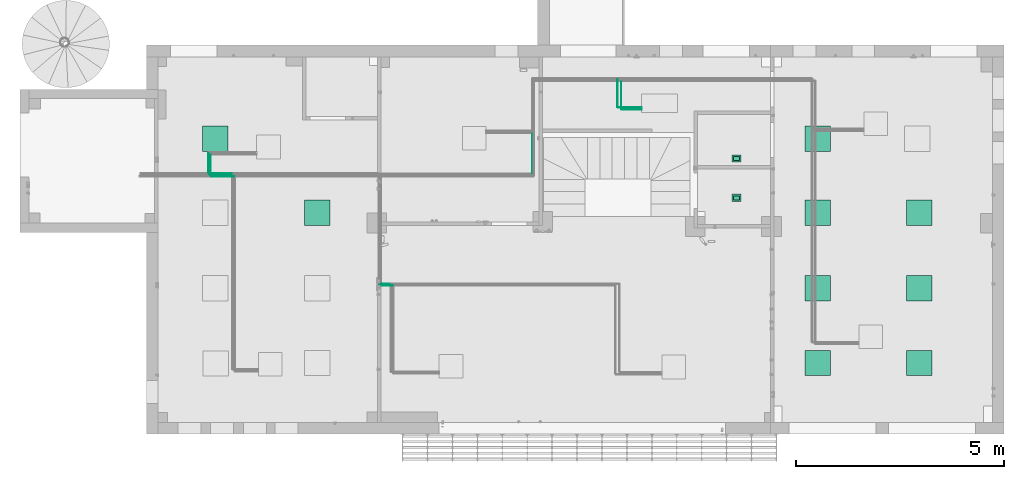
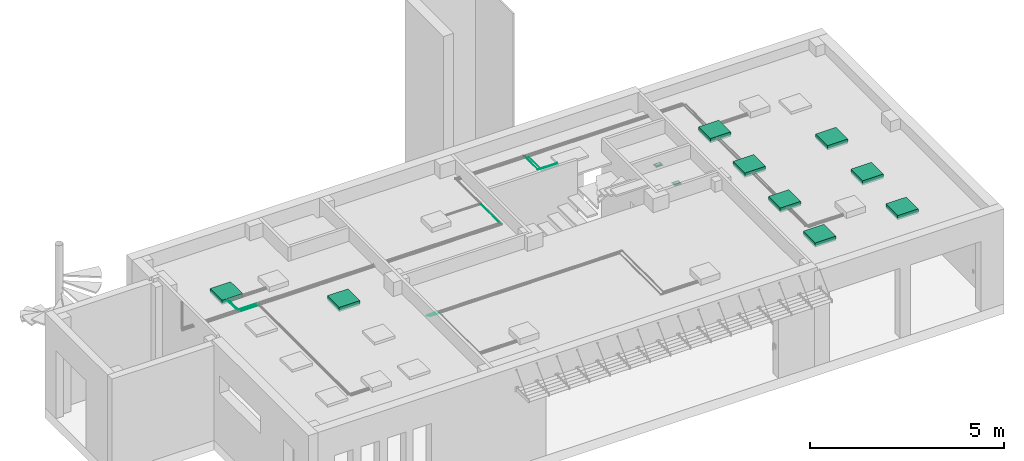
# One storey, part 8 of 24: 11 flow segments, 11 flow terminals.
"""IFC2X3 building model written with IfcOpenShell, lengths in millimetres."""

from ifc_helpers import new_model, entity, si_unit, converted_unit, derived_unit, direction, frame, frame_2d, origin, origin_2d_with_axis, place, context, subcontext, project, spatial, polyline, rectangle, circle, outline, extrude, source, transform, mapped, material, material_list, type_object, type_shapes, element, save


model = new_model("IFC2X3")

# Units and contexts
model_context = context("Model", 3, precision=0.01, world=origin(), true_north=direction((6.123031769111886e-17, 1.0)))
body_context = subcontext(model_context, "Body", "Model", "MODEL_VIEW")
ifc_project = project(units=[si_unit("LENGTHUNIT", "METRE", prefix="MILLI"), si_unit("AREAUNIT", "SQUARE_METRE"), si_unit("VOLUMEUNIT", "CUBIC_METRE"), converted_unit("PLANEANGLEUNIT", "DEGREE", entity("IfcRatioMeasure", 0.017453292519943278), si_unit("PLANEANGLEUNIT", "RADIAN"), dimensions=[0, 0, 0, 0, 0, 0, 0]), si_unit("MASSUNIT", "GRAM", prefix="KILO"), derived_unit("MASSDENSITYUNIT", [(si_unit("MASSUNIT", "GRAM", prefix="KILO"), 1), (si_unit("LENGTHUNIT", "METRE"), -3)]), derived_unit("MOMENTOFINERTIAUNIT", [(si_unit("LENGTHUNIT", "METRE"), 4)]), si_unit("TIMEUNIT", "SECOND"), si_unit("FREQUENCYUNIT", "HERTZ"), si_unit("THERMODYNAMICTEMPERATUREUNIT", "DEGREE_CELSIUS"), derived_unit("THERMALTRANSMITTANCEUNIT", [(si_unit("MASSUNIT", "GRAM", prefix="KILO"), 1), (si_unit("THERMODYNAMICTEMPERATUREUNIT", "KELVIN"), -1), (si_unit("TIMEUNIT", "SECOND"), -3)]), derived_unit("VOLUMETRICFLOWRATEUNIT", [(si_unit("LENGTHUNIT", "METRE"), 3), (si_unit("TIMEUNIT", "SECOND"), -1)]), derived_unit("MASSFLOWRATEUNIT", [(si_unit("MASSUNIT", "GRAM", prefix="KILO"), 1), (si_unit("TIMEUNIT", "SECOND"), -1)]), derived_unit("ROTATIONALFREQUENCYUNIT", [(si_unit("TIMEUNIT", "SECOND"), -1)]), si_unit("ELECTRICCURRENTUNIT", "AMPERE"), si_unit("ELECTRICVOLTAGEUNIT", "VOLT"), si_unit("POWERUNIT", "WATT"), si_unit("FORCEUNIT", "NEWTON", prefix="KILO"), si_unit("ILLUMINANCEUNIT", "LUX"), si_unit("LUMINOUSFLUXUNIT", "LUMEN"), si_unit("LUMINOUSINTENSITYUNIT", "CANDELA"), derived_unit("USERDEFINED", [(si_unit("MASSUNIT", "GRAM", prefix="KILO"), -1), (si_unit("LENGTHUNIT", "METRE"), -2), (si_unit("TIMEUNIT", "SECOND"), 3), (si_unit("LUMINOUSFLUXUNIT", "LUMEN"), 1)]), derived_unit("SOUNDPOWERUNIT", [(si_unit("MASSUNIT", "GRAM", prefix="KILO"), 1), (si_unit("LENGTHUNIT", "METRE"), 2), (si_unit("TIMEUNIT", "SECOND"), -3)]), derived_unit("SOUNDPRESSUREUNIT", [(si_unit("MASSUNIT", "GRAM", prefix="KILO"), 1), (si_unit("LENGTHUNIT", "METRE"), -1), (si_unit("TIMEUNIT", "SECOND"), -2)]), derived_unit("LINEARVELOCITYUNIT", [(si_unit("LENGTHUNIT", "METRE"), 1), (si_unit("TIMEUNIT", "SECOND"), -1)]), si_unit("PRESSUREUNIT", "PASCAL"), derived_unit("USERDEFINED", [(si_unit("LENGTHUNIT", "METRE"), -2), (si_unit("MASSUNIT", "GRAM", prefix="KILO"), 1), (si_unit("TIMEUNIT", "SECOND"), -2)]), derived_unit("LINEARFORCEUNIT", [(si_unit("MASSUNIT", "GRAM", prefix="KILO"), 1), (si_unit("LENGTHUNIT", "METRE"), 1), (si_unit("TIMEUNIT", "SECOND"), -2), (si_unit("LENGTHUNIT", "METRE"), -1)]), derived_unit("PLANARFORCEUNIT", [(si_unit("MASSUNIT", "GRAM", prefix="KILO"), 1), (si_unit("LENGTHUNIT", "METRE"), 1), (si_unit("TIMEUNIT", "SECOND"), -2), (si_unit("LENGTHUNIT", "METRE"), -2)])], contexts=[model_context])

# Site, building, storey
site_placement = place(None, origin())
site = spatial("IfcSite", under=ifc_project, at=site_placement, Name="Default", CompositionType="ELEMENT")
building_placement = place(site_placement, origin())
building = spatial("IfcBuilding", under=site, at=building_placement, CompositionType="ELEMENT")
storey_placement = place(building_placement, origin())
storey = spatial("IfcBuildingStorey", under=building, at=storey_placement, Name="Level 1", CompositionType="ELEMENT", Elevation=0.0)

# Flow segments
ifc_material_1 = material(Name="<Unnamed>")
pipe_segment_type_1 = type_object("IfcPipeSegmentType", Name="Pipe Types:Standard:Standard : Pipe Types:Standard", PredefinedType="NOTDEFINED", material=ifc_material_1)
shared_shape_1 = source(origin(), body_context, "Body", "SweptSolid", [
    extrude(circle(Radius=6.35, at=origin_2d_with_axis()), frame((-3812.50906886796, -454.56947897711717, 2710.0), z_axis=(1.0, 0.0, 0.0), x_axis=(0.0, 1.0, 0.0)), (0.0, 0.0, 1.0), 254.76162965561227),
])
type_shapes(pipe_segment_type_1, [shared_shape_1])
flow_segment_1_placement = place(storey_placement, origin())
element("IfcFlowSegment", 1, at=flow_segment_1_placement, inside=storey, type_object=pipe_segment_type_1, material=ifc_material_1, Name="Pipe Types:Standard:Standard : Pipe Types:Standard:Standard:Standard : Pipe Types:Standard : Pipe Types:Standard:Standard : Pipe Types:Standard", ObjectType="Pipe Types:Standard:Standard : Pipe Types:Standard:Standard:Standard : Pipe Types:Standard : Pipe Types:Standard:Standard : Pipe Types:Standard", context=body_context, shape_type="MappedRepresentation", body=[
    mapped(shared_shape_1, transform((0.0, 0.0, 0.0), scale=1.0)),
])
pipe_segment_type_2 = type_object("IfcPipeSegmentType", Name="Pipe Types:Standard:Standard : Pipe Types:Standard", PredefinedType="NOTDEFINED", material=ifc_material_1)
shared_shape_2 = source(origin(), body_context, "Body", "SweptSolid", [
    extrude(circle(Radius=3.97, at=origin_2d_with_axis()), frame((-3758.45993921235, -498.319478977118, 2690.0), z_axis=(1.0, 0.0, 0.0), x_axis=(0.0, 1.0, 0.0)), (0.0, 0.0, 1.0), 268.88750000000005),
])
type_shapes(pipe_segment_type_2, [shared_shape_2])
flow_segment_2_placement = place(storey_placement, origin())
element("IfcFlowSegment", 2, at=flow_segment_2_placement, inside=storey, type_object=pipe_segment_type_2, material=ifc_material_1, Name="Pipe Types:Standard:Standard : Pipe Types:Standard:Standard:Standard : Pipe Types:Standard : Pipe Types:Standard:Standard : Pipe Types:Standard", ObjectType="Pipe Types:Standard:Standard : Pipe Types:Standard:Standard:Standard : Pipe Types:Standard : Pipe Types:Standard:Standard : Pipe Types:Standard", context=body_context, shape_type="MappedRepresentation", body=[
    mapped(shared_shape_2, transform((0.0, 0.0, 0.0), scale=1.0)),
])
pipe_segment_type_3 = type_object("IfcPipeSegmentType", Name="Pipe Types:Standard:Standard : Pipe Types:Standard", PredefinedType="NOTDEFINED", material=ifc_material_1)
shared_shape_3 = source(origin(), body_context, "Body", "SweptSolid", [
    extrude(circle(Radius=6.35, at=origin_2d_with_axis()), frame((-129.02240663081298, 2205.35180308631, 2710.0), z_axis=(0.0, 1.0, 0.0), x_axis=(-1.0, 0.0, 0.0)), (0.0, 0.0, 1.0), 955.4242236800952),
])
type_shapes(pipe_segment_type_3, [shared_shape_3])
flow_segment_3_placement = place(storey_placement, origin())
element("IfcFlowSegment", 3, at=flow_segment_3_placement, inside=storey, type_object=pipe_segment_type_3, material=ifc_material_1, Name="Pipe Types:Standard:Standard : Pipe Types:Standard:Standard:Standard : Pipe Types:Standard : Pipe Types:Standard:Standard : Pipe Types:Standard", ObjectType="Pipe Types:Standard:Standard : Pipe Types:Standard:Standard:Standard : Pipe Types:Standard : Pipe Types:Standard:Standard : Pipe Types:Standard", context=body_context, shape_type="MappedRepresentation", body=[
    mapped(shared_shape_3, transform((0.0, 0.0, 0.0), scale=1.0)),
])
pipe_segment_type_4 = type_object("IfcPipeSegmentType", Name="Pipe Types:Standard:Standard : Pipe Types:Standard", PredefinedType="NOTDEFINED", material=ifc_material_1)
shared_shape_4 = source(origin(), body_context, "Body", "SweptSolid", [
    extrude(circle(Radius=3.175, at=origin_2d_with_axis()), frame((-7877.983124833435, 2156.17020603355, 2690.0), z_axis=(0.0, 1.0, 0.0), x_axis=(-1.0, 0.0, 0.0)), (0.0, 0.0, 1.0), 493.79422679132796),
])
type_shapes(pipe_segment_type_4, [shared_shape_4])
flow_segment_4_placement = place(storey_placement, origin())
element("IfcFlowSegment", 4, at=flow_segment_4_placement, inside=storey, type_object=pipe_segment_type_4, material=ifc_material_1, Name="Pipe Types:Standard:Standard : Pipe Types:Standard:Standard:Standard : Pipe Types:Standard : Pipe Types:Standard:Standard : Pipe Types:Standard", ObjectType="Pipe Types:Standard:Standard : Pipe Types:Standard:Standard:Standard : Pipe Types:Standard : Pipe Types:Standard:Standard : Pipe Types:Standard", context=body_context, shape_type="MappedRepresentation", body=[
    mapped(shared_shape_4, transform((0.0, 0.0, 0.0), scale=1.0)),
])
pipe_segment_type_5 = type_object("IfcPipeSegmentType", Name="Pipe Types:Standard:Standard : Pipe Types:Standard", PredefinedType="NOTDEFINED", material=ifc_material_1)
shared_shape_5 = source(origin(), body_context, "Body", "SweptSolid", [
    extrude(circle(Radius=6.35, at=origin_2d_with_axis()), frame((-7929.794384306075, 2220.4330530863, 2710.0), z_axis=(0.0, 1.0, 0.0), x_axis=(-1.0, 0.0, 0.0)), (0.0, 0.0, 1.0), 472.89387973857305),
])
type_shapes(pipe_segment_type_5, [shared_shape_5])
flow_segment_5_placement = place(storey_placement, origin())
element("IfcFlowSegment", 5, at=flow_segment_5_placement, inside=storey, type_object=pipe_segment_type_5, material=ifc_material_1, Name="Pipe Types:Standard:Standard : Pipe Types:Standard:Standard:Standard : Pipe Types:Standard : Pipe Types:Standard:Standard : Pipe Types:Standard", ObjectType="Pipe Types:Standard:Standard : Pipe Types:Standard:Standard:Standard : Pipe Types:Standard : Pipe Types:Standard:Standard : Pipe Types:Standard", context=body_context, shape_type="MappedRepresentation", body=[
    mapped(shared_shape_5, transform((0.0, 0.0, 0.0), scale=1.0)),
])
pipe_segment_type_6 = type_object("IfcPipeSegmentType", Name="Pipe Types:Standard:Standard : Pipe Types:Standard", PredefinedType="NOTDEFINED", material=ifc_material_1)
shared_shape_6 = source(origin(), body_context, "Body", "SweptSolid", [
    extrude(circle(Radius=4.76, at=origin_2d_with_axis()), frame((-7858.93312483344, 2132.0702060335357, 2690.0), z_axis=(1.0, 0.0, 0.0), x_axis=(0.0, 1.0, 0.0)), (0.0, 0.0, 1.0), 552.2060224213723),
])
type_shapes(pipe_segment_type_6, [shared_shape_6])
flow_segment_6_placement = place(storey_placement, origin())
element("IfcFlowSegment", 6, at=flow_segment_6_placement, inside=storey, type_object=pipe_segment_type_6, material=ifc_material_1, Name="Pipe Types:Standard:Standard : Pipe Types:Standard:Standard:Standard : Pipe Types:Standard : Pipe Types:Standard:Standard : Pipe Types:Standard", ObjectType="Pipe Types:Standard:Standard : Pipe Types:Standard:Standard:Standard : Pipe Types:Standard : Pipe Types:Standard:Standard : Pipe Types:Standard", context=body_context, shape_type="MappedRepresentation", body=[
    mapped(shared_shape_6, transform((0.0, 0.0, 0.0), scale=1.0)),
])
pipe_segment_type_7 = type_object("IfcPipeSegmentType", Name="Pipe Types:Standard:Standard : Pipe Types:Standard", PredefinedType="NOTDEFINED", material=ifc_material_1)
shared_shape_7 = source(origin(), body_context, "Body", "SweptSolid", [
    extrude(circle(Radius=9.525, at=origin_2d_with_axis()), frame((-7905.98188430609, 2191.0643030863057, 2710.0), z_axis=(1.0, 0.0, 0.0), x_axis=(0.0, 1.0, 0.0)), (0.0, 0.0, 1.0), 534.4922818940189),
])
type_shapes(pipe_segment_type_7, [shared_shape_7])
flow_segment_7_placement = place(storey_placement, origin())
element("IfcFlowSegment", 7, at=flow_segment_7_placement, inside=storey, type_object=pipe_segment_type_7, material=ifc_material_1, Name="Pipe Types:Standard:Standard : Pipe Types:Standard:Standard:Standard : Pipe Types:Standard : Pipe Types:Standard:Standard : Pipe Types:Standard", ObjectType="Pipe Types:Standard:Standard : Pipe Types:Standard:Standard:Standard : Pipe Types:Standard : Pipe Types:Standard:Standard : Pipe Types:Standard", context=body_context, shape_type="MappedRepresentation", body=[
    mapped(shared_shape_7, transform((0.0, 0.0, 0.0), scale=1.0)),
])
pipe_segment_type_8 = type_object("IfcPipeSegmentType", Name="Pipe Types:Standard:Standard : Pipe Types:Standard", PredefinedType="NOTDEFINED", material=ifc_material_1)
shared_shape_8 = source(origin(), body_context, "Body", "SweptSolid", [
    extrude(circle(Radius=3.175, at=origin_2d_with_axis()), frame((2022.20004958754, 3737.4280521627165, 2690.0), z_axis=(1.0, 0.0, 0.0), x_axis=(0.0, 1.0, 0.0)), (0.0, 0.0, 1.0), 478.5562500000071),
])
type_shapes(pipe_segment_type_8, [shared_shape_8])
flow_segment_8_placement = place(storey_placement, origin())
element("IfcFlowSegment", 8, at=flow_segment_8_placement, inside=storey, type_object=pipe_segment_type_8, material=ifc_material_1, Name="Pipe Types:Standard:Standard : Pipe Types:Standard:Standard:Standard : Pipe Types:Standard : Pipe Types:Standard:Standard : Pipe Types:Standard", ObjectType="Pipe Types:Standard:Standard : Pipe Types:Standard:Standard:Standard : Pipe Types:Standard : Pipe Types:Standard:Standard : Pipe Types:Standard", context=body_context, shape_type="MappedRepresentation", body=[
    mapped(shared_shape_8, transform((0.0, 0.0, 0.0), scale=1.0)),
])
pipe_segment_type_9 = type_object("IfcPipeSegmentType", Name="Pipe Types:Standard:Standard : Pipe Types:Standard", PredefinedType="NOTDEFINED", material=ifc_material_1)
shared_shape_9 = source(origin(), body_context, "Body", "SweptSolid", [
    extrude(circle(Radius=3.175, at=origin_2d_with_axis()), frame((2012.6750495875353, 3746.95305216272, 2690.0), z_axis=(0.0, 1.0, 0.0), x_axis=(-1.0, 0.0, 0.0)), (0.0, 0.0, 1.0), 664.2668489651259),
])
type_shapes(pipe_segment_type_9, [shared_shape_9])
flow_segment_9_placement = place(storey_placement, origin())
element("IfcFlowSegment", 9, at=flow_segment_9_placement, inside=storey, type_object=pipe_segment_type_9, material=ifc_material_1, Name="Pipe Types:Standard:Standard : Pipe Types:Standard:Standard:Standard : Pipe Types:Standard : Pipe Types:Standard:Standard : Pipe Types:Standard", ObjectType="Pipe Types:Standard:Standard : Pipe Types:Standard:Standard:Standard : Pipe Types:Standard : Pipe Types:Standard:Standard : Pipe Types:Standard", context=body_context, shape_type="MappedRepresentation", body=[
    mapped(shared_shape_9, transform((0.0, 0.0, 0.0), scale=1.0)),
])
pipe_segment_type_10 = type_object("IfcPipeSegmentType", Name="Pipe Types:Standard:Standard : Pipe Types:Standard", PredefinedType="NOTDEFINED", material=ifc_material_1)
shared_shape_10 = source(origin(), body_context, "Body", "SweptSolid", [
    extrude(circle(Radius=6.35, at=origin_2d_with_axis()), frame((1937.4375495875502, 3787.428052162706, 2710.0), z_axis=(1.0, 0.0, 0.0), x_axis=(0.0, 1.0, 0.0)), (0.0, 0.0, 1.0), 561.7437500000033),
])
type_shapes(pipe_segment_type_10, [shared_shape_10])
flow_segment_10_placement = place(storey_placement, origin())
element("IfcFlowSegment", 10, at=flow_segment_10_placement, inside=storey, type_object=pipe_segment_type_10, material=ifc_material_1, Name="Pipe Types:Standard:Standard : Pipe Types:Standard:Standard:Standard : Pipe Types:Standard : Pipe Types:Standard:Standard : Pipe Types:Standard", ObjectType="Pipe Types:Standard:Standard : Pipe Types:Standard:Standard:Standard : Pipe Types:Standard : Pipe Types:Standard:Standard : Pipe Types:Standard", context=body_context, shape_type="MappedRepresentation", body=[
    mapped(shared_shape_10, transform((0.0, 0.0, 0.0), scale=1.0)),
])
pipe_segment_type_11 = type_object("IfcPipeSegmentType", Name="Pipe Types:Standard:Standard : Pipe Types:Standard", PredefinedType="NOTDEFINED", material=ifc_material_1)
shared_shape_11 = source(origin(), body_context, "Body", "SweptSolid", [
    extrude(circle(Radius=6.35, at=origin_2d_with_axis()), frame((1923.1500495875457, 3801.71555216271, 2710.0), z_axis=(0.0, 1.0, 0.0), x_axis=(1.0, 0.0, 0.0)), (0.0, 0.0, 1.0), 667.6676917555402),
])
type_shapes(pipe_segment_type_11, [shared_shape_11])
flow_segment_11_placement = place(storey_placement, origin())
element("IfcFlowSegment", 11, at=flow_segment_11_placement, inside=storey, type_object=pipe_segment_type_11, material=ifc_material_1, Name="Pipe Types:Standard:Standard : Pipe Types:Standard:Standard:Standard : Pipe Types:Standard : Pipe Types:Standard:Standard : Pipe Types:Standard", ObjectType="Pipe Types:Standard:Standard : Pipe Types:Standard:Standard:Standard : Pipe Types:Standard : Pipe Types:Standard:Standard : Pipe Types:Standard", context=body_context, shape_type="MappedRepresentation", body=[
    mapped(shared_shape_11, transform((0.0, 0.0, 0.0), scale=1.0)),
])

# Flow terminals
ifc_material_2 = material(Name="Glass, White, High Luminance")
ifc_material_3 = material(Name="Steel, Chrome Plated 155972")
ifc_material_list_1 = material_list([ifc_material_2, ifc_material_3, ifc_material_2, ifc_material_3])
ifc_material_list_2 = material_list([ifc_material_2, ifc_material_3, ifc_material_2, ifc_material_3])
light_fixture_type_1 = type_object("IfcLightFixtureType", Name="M_Troffer Light - Parabolic Square control rooms:0600x0600mm(2 Lamp) - 120V:0600x0600mm(2 Lamp) - 120V : M_Troffer Light - Parabolic Square control rooms:0600x0600mm(2 Lamp) - 120V", PredefinedType="NOTDEFINED", material=ifc_material_list_2)
shared_shape_12 = source(origin(), body_context, "Body", "SweptSolid", [
    extrude(rectangle(XDim=558.799999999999, YDim=558.7999999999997, at=frame_2d((-2.5579538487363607e-13, 5.400124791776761e-13), x_axis=(1.0, 0.0))), frame((-7760.566741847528, 3038.328881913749, 2676.199999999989), z_axis=(0.0, 0.0, 1.0), x_axis=(0.0, 1.0, 0.0)), (0.0, 0.0, 1.0), 6.350000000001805),
    extrude(outline(polyline([(-304.8000000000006, -304.8000000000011), (304.8, -304.8000000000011), (304.8, 304.8), (-304.8000000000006, 304.8), (-304.8000000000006, -304.8000000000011)]), holes=[polyline([(279.4000000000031, 279.39999999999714), (279.4000000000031, -279.40000000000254), (-279.39999999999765, -279.40000000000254), (-279.39999999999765, 279.39999999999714), (279.4000000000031, 279.39999999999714)])]), frame((-7760.566741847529, 3038.328881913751, 2600.0), z_axis=(0.0, 0.0, 1.0), x_axis=(0.0, -1.0, 0.0)), (0.0, 0.0, 1.0), 114.29999999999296),
    extrude(rectangle(XDim=558.8000000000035, YDim=558.7999999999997, at=frame_2d((2.8421709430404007e-13, 5.400124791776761e-13), x_axis=(1.0, 0.0))), frame((-7760.566741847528, 3038.32888191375, 2590.0), z_axis=(0.0, 0.0, 1.0), x_axis=(0.0, 1.0, 0.0)), (0.0, 0.0, 1.0), 59.99999999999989),
    extrude(rectangle(XDim=609.6000000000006, YDim=609.6000000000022, at=frame_2d((2.8421709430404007e-13, 0.0), x_axis=(1.0, 0.0))), frame((-7760.5667418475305, 3038.328881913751, 2714.2999999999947), z_axis=(0.0, 0.0, 1.0), x_axis=(0.0, 1.0, 0.0)), (0.0, 0.0, 1.0), 25.399999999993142),
])
type_shapes(light_fixture_type_1, [shared_shape_12])
flow_terminal_1_placement = place(storey_placement, origin())
element("IfcFlowTerminal", 12, at=flow_terminal_1_placement, inside=storey, type_object=light_fixture_type_1, material=ifc_material_list_1, context=body_context, shape_type="MappedRepresentation", body=[
    mapped(shared_shape_12, transform((0.0, 0.0, 0.0), scale=1.0)),
])
ifc_material_list_3 = material_list([ifc_material_2, ifc_material_3, ifc_material_2, ifc_material_3])
ifc_material_list_4 = material_list([ifc_material_2, ifc_material_3, ifc_material_2, ifc_material_3])
light_fixture_type_2 = type_object("IfcLightFixtureType", Name="M_Troffer Light - Parabolic Square control rooms:0600x0600mm(2 Lamp) - 120V:0600x0600mm(2 Lamp) - 120V : M_Troffer Light - Parabolic Square control rooms:0600x0600mm(2 Lamp) - 120V", PredefinedType="NOTDEFINED", material=ifc_material_list_4)
shared_shape_13 = source(origin(), body_context, "Body", "SweptSolid", [
    extrude(rectangle(XDim=558.8000000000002, YDim=558.7999999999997, at=frame_2d((0.0, -5.400124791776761e-13), x_axis=(1.0, 0.0))), frame((-5310.5667418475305, 1254.167246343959, 2676.199999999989), z_axis=(0.0, 0.0, 1.0), x_axis=(0.0, 1.0, 0.0)), (0.0, 0.0, 1.0), 6.350000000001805),
    extrude(outline(polyline([(-304.8, -304.8), (304.7999999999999, -304.8), (304.7999999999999, 304.8), (-304.8, 304.8), (-304.8, -304.8)]), holes=[polyline([(279.4000000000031, 279.39999999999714), (279.4000000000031, -279.40000000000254), (-279.39999999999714, -279.40000000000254), (-279.39999999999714, 279.39999999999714), (279.4000000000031, 279.39999999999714)])]), frame((-5310.56674184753, 1254.167246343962, 2600.0), z_axis=(0.0, 0.0, 1.0), x_axis=(0.0, -1.0, 0.0)), (0.0, 0.0, 1.0), 114.29999999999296),
    extrude(rectangle(XDim=558.8000000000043, YDim=558.7999999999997, at=frame_2d((1.1368683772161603e-13, -5.400124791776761e-13), x_axis=(1.0, 0.0))), frame((-5310.5667418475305, 1254.1672463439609, 2590.0), z_axis=(0.0, 0.0, 1.0), x_axis=(0.0, 1.0, 0.0)), (0.0, 0.0, 1.0), 59.99999999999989),
    extrude(rectangle(XDim=609.5999999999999, YDim=609.6000000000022, at=frame_2d((5.684341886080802e-14, 0.0), x_axis=(1.0, 0.0))), frame((-5310.56674184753, 1254.167246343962, 2714.2999999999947), z_axis=(0.0, 0.0, 1.0), x_axis=(0.0, 1.0, 0.0)), (0.0, 0.0, 1.0), 25.399999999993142),
])
type_shapes(light_fixture_type_2, [shared_shape_13])
flow_terminal_2_placement = place(storey_placement, origin())
element("IfcFlowTerminal", 13, at=flow_terminal_2_placement, inside=storey, type_object=light_fixture_type_2, material=ifc_material_list_3, context=body_context, shape_type="MappedRepresentation", body=[
    mapped(shared_shape_13, transform((0.0, 0.0, 0.0), scale=1.0)),
])
ifc_material_list_5 = material_list([ifc_material_1, ifc_material_1])
ifc_material_list_6 = material_list([ifc_material_1, ifc_material_1])
air_terminal_type_1 = type_object("IfcAirTerminalType", Name="M_Return Grille with Trim - Ceiling Mounted:228 mmx178 mm Face 150 mmx100 mm Neck:228 mmx178 mm Face 150 mmx100 mm Neck : M_Return Grille with Trim - Ceiling Mounted:228 mmx178 mm Face 150 mmx100 mm Neck", PredefinedType="NOTDEFINED", material=ifc_material_list_6)
shared_shape_14 = source(origin(), body_context, "Body", "SweptSolid", [
    extrude(rectangle(XDim=100.0, YDim=150.0, at=frame_2d((0.0, -2.7000623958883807e-13), x_axis=(1.0, 0.0))), frame((4786.40246908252, 2562.39546617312, 2593.6500000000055), z_axis=(0.0, 0.0, 1.0), x_axis=(0.0, 1.0, 0.0)), (0.0, 0.0, 1.0), 25.39999999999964),
    extrude(rectangle(XDim=176.19999999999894, YDim=226.20000000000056, at=origin_2d_with_axis()), frame((4786.40246908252, 2562.39546617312, 2593.6500000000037), z_axis=(0.0, 0.0, 1.0), x_axis=(0.0, 1.0, 0.0)), (0.0, 0.0, 1.0), 6.349999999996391),
])
type_shapes(air_terminal_type_1, [shared_shape_14])
flow_terminal_3_placement = place(storey_placement, origin())
element("IfcFlowTerminal", 14, at=flow_terminal_3_placement, inside=storey, type_object=air_terminal_type_1, material=ifc_material_list_5, context=body_context, shape_type="MappedRepresentation", body=[
    mapped(shared_shape_14, transform((0.0, 0.0, 0.0), scale=1.0)),
])
ifc_material_list_7 = material_list([ifc_material_1, ifc_material_1])
ifc_material_list_8 = material_list([ifc_material_1, ifc_material_1])
air_terminal_type_2 = type_object("IfcAirTerminalType", Name="M_Return Grille with Trim - Ceiling Mounted:228 mmx178 mm Face 150 mmx100 mm Neck:228 mmx178 mm Face 150 mmx100 mm Neck : M_Return Grille with Trim - Ceiling Mounted:228 mmx178 mm Face 150 mmx100 mm Neck", PredefinedType="NOTDEFINED", material=ifc_material_list_8)
shared_shape_15 = source(origin(), body_context, "Body", "SweptSolid", [
    extrude(rectangle(XDim=100.0, YDim=150.0, at=frame_2d((0.0, 2.7000623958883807e-13), x_axis=(1.0, 0.0))), frame((4785.717793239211, 1614.42451861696, 2593.6500000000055), z_axis=(0.0, 0.0, 1.0), x_axis=(0.0, 1.0, 0.0)), (0.0, 0.0, 1.0), 25.39999999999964),
    extrude(rectangle(XDim=176.19999999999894, YDim=226.20000000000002, at=frame_2d((0.0, 2.7000623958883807e-13), x_axis=(1.0, 0.0))), frame((4785.717793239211, 1614.42451861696, 2593.6500000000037), z_axis=(0.0, 0.0, 1.0), x_axis=(0.0, 1.0, 0.0)), (0.0, 0.0, 1.0), 6.349999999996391),
])
type_shapes(air_terminal_type_2, [shared_shape_15])
flow_terminal_4_placement = place(storey_placement, origin())
element("IfcFlowTerminal", 15, at=flow_terminal_4_placement, inside=storey, type_object=air_terminal_type_2, material=ifc_material_list_7, context=body_context, shape_type="MappedRepresentation", body=[
    mapped(shared_shape_15, transform((0.0, 0.0, 0.0), scale=1.0)),
])
ifc_material_list_9 = material_list([ifc_material_2, ifc_material_3, ifc_material_2, ifc_material_3])
ifc_material_list_10 = material_list([ifc_material_2, ifc_material_3, ifc_material_2, ifc_material_3])
light_fixture_type_3 = type_object("IfcLightFixtureType", Name="M_Troffer Light - Parabolic Square control rooms:0600x0600mm(2 Lamp) - 120V:0600x0600mm(2 Lamp) - 120V : M_Troffer Light - Parabolic Square control rooms:0600x0600mm(2 Lamp) - 120V", PredefinedType="NOTDEFINED", material=ifc_material_list_10)
shared_shape_16 = source(origin(), body_context, "Body", "SweptSolid", [
    extrude(rectangle(XDim=558.8, YDim=558.7999999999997, at=frame_2d((0.0, -5.400124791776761e-13), x_axis=(1.0, 0.0))), frame((6739.43325815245, -561.671110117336, 2676.199999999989), z_axis=(0.0, 0.0, 1.0), x_axis=(0.0, 1.0, 0.0)), (0.0, 0.0, 1.0), 6.350000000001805),
    extrude(outline(polyline([(-304.8, -304.8), (304.8, -304.8), (304.8, 304.8), (-304.8, 304.8), (-304.8, -304.8)]), holes=[polyline([(279.4000000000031, 279.3999999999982), (279.4000000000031, -279.40000000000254), (-279.3999999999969, -279.40000000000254), (-279.3999999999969, 279.3999999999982), (279.4000000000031, 279.3999999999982)])]), frame((6739.43325815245, -561.671110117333, 2600.0), z_axis=(0.0, 0.0, 1.0), x_axis=(0.0, -1.0, 0.0)), (0.0, 0.0, 1.0), 114.29999999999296),
    extrude(rectangle(XDim=558.8000000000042, YDim=558.7999999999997, at=frame_2d((5.684341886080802e-14, -5.400124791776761e-13), x_axis=(1.0, 0.0))), frame((6739.43325815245, -561.671110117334, 2590.0), z_axis=(0.0, 0.0, 1.0), x_axis=(0.0, 1.0, 0.0)), (0.0, 0.0, 1.0), 59.99999999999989),
    extrude(rectangle(XDim=609.6, YDim=609.6000000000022, at=origin_2d_with_axis()), frame((6739.433258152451, -561.671110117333, 2714.2999999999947), z_axis=(0.0, 0.0, 1.0), x_axis=(0.0, 1.0, 0.0)), (0.0, 0.0, 1.0), 25.399999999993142),
])
type_shapes(light_fixture_type_3, [shared_shape_16])
flow_terminal_5_placement = place(storey_placement, origin())
element("IfcFlowTerminal", 16, at=flow_terminal_5_placement, inside=storey, type_object=light_fixture_type_3, material=ifc_material_list_9, context=body_context, shape_type="MappedRepresentation", body=[
    mapped(shared_shape_16, transform((0.0, 0.0, 0.0), scale=1.0)),
])
ifc_material_list_11 = material_list([ifc_material_2, ifc_material_3, ifc_material_2, ifc_material_3])
ifc_material_list_12 = material_list([ifc_material_2, ifc_material_3, ifc_material_2, ifc_material_3])
light_fixture_type_4 = type_object("IfcLightFixtureType", Name="M_Troffer Light - Parabolic Square control rooms:0600x0600mm(2 Lamp) - 120V:0600x0600mm(2 Lamp) - 120V : M_Troffer Light - Parabolic Square control rooms:0600x0600mm(2 Lamp) - 120V", PredefinedType="NOTDEFINED", material=ifc_material_list_12)
shared_shape_17 = source(origin(), body_context, "Body", "SweptSolid", [
    extrude(rectangle(XDim=558.8, YDim=558.7999999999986, at=origin_2d_with_axis()), frame((9189.43325815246, -561.671110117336, 2676.199999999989), z_axis=(0.0, 0.0, 1.0), x_axis=(0.0, 1.0, 0.0)), (0.0, 0.0, 1.0), 6.350000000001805),
    extrude(outline(polyline([(-304.8, -304.79999999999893), (304.8, -304.79999999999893), (304.8, 304.79999999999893), (-304.8, 304.79999999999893), (-304.8, -304.79999999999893)]), holes=[polyline([(279.4000000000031, 279.3999999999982), (279.4000000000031, -279.40000000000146), (-279.3999999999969, -279.40000000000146), (-279.3999999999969, 279.3999999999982), (279.4000000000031, 279.3999999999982)])]), frame((9189.43325815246, -561.671110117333, 2600.0), z_axis=(0.0, 0.0, 1.0), x_axis=(0.0, -1.0, 0.0)), (0.0, 0.0, 1.0), 114.29999999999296),
    extrude(rectangle(XDim=558.8000000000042, YDim=558.7999999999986, at=frame_2d((5.684341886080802e-14, 0.0), x_axis=(1.0, 0.0))), frame((9189.43325815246, -561.671110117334, 2590.0), z_axis=(0.0, 0.0, 1.0), x_axis=(0.0, 1.0, 0.0)), (0.0, 0.0, 1.0), 59.99999999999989),
    extrude(rectangle(XDim=609.6, YDim=609.6000000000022, at=origin_2d_with_axis()), frame((9189.43325815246, -561.671110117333, 2714.2999999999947), z_axis=(0.0, 0.0, 1.0), x_axis=(0.0, 1.0, 0.0)), (0.0, 0.0, 1.0), 25.399999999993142),
])
type_shapes(light_fixture_type_4, [shared_shape_17])
flow_terminal_6_placement = place(storey_placement, origin())
element("IfcFlowTerminal", 17, at=flow_terminal_6_placement, inside=storey, type_object=light_fixture_type_4, material=ifc_material_list_11, context=body_context, shape_type="MappedRepresentation", body=[
    mapped(shared_shape_17, transform((0.0, 0.0, 0.0), scale=1.0)),
])
ifc_material_list_13 = material_list([ifc_material_2, ifc_material_3, ifc_material_2, ifc_material_3])
ifc_material_list_14 = material_list([ifc_material_2, ifc_material_3, ifc_material_2, ifc_material_3])
light_fixture_type_5 = type_object("IfcLightFixtureType", Name="M_Troffer Light - Parabolic Square control rooms:0600x0600mm(2 Lamp) - 120V:0600x0600mm(2 Lamp) - 120V : M_Troffer Light - Parabolic Square control rooms:0600x0600mm(2 Lamp) - 120V", PredefinedType="NOTDEFINED", material=ifc_material_list_14)
shared_shape_18 = source(origin(), body_context, "Body", "SweptSolid", [
    extrude(rectangle(XDim=558.799999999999, YDim=558.7999999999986, at=frame_2d((2.5579538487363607e-13, 0.0), x_axis=(1.0, 0.0))), frame((9189.43325815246, -2361.6711181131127, 2676.199999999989), z_axis=(0.0, 0.0, 1.0), x_axis=(0.0, 1.0, 0.0)), (0.0, 0.0, 1.0), 6.350000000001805),
    extrude(outline(polyline([(-304.8, -304.79999999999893), (304.8000000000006, -304.79999999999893), (304.8000000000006, 304.79999999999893), (-304.8, 304.79999999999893), (-304.8, -304.79999999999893)]), holes=[polyline([(279.4000000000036, 279.3999999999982), (279.4000000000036, -279.40000000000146), (-279.39999999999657, -279.40000000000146), (-279.39999999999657, 279.3999999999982), (279.4000000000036, 279.3999999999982)])]), frame((9189.43325815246, -2361.6711181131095, 2600.0), z_axis=(0.0, 0.0, 1.0), x_axis=(0.0, -1.0, 0.0)), (0.0, 0.0, 1.0), 114.29999999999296),
    extrude(rectangle(XDim=558.8000000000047, YDim=558.7999999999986, at=frame_2d((-1.4210854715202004e-13, 0.0), x_axis=(1.0, 0.0))), frame((9189.43325815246, -2361.6711181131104, 2590.0), z_axis=(0.0, 0.0, 1.0), x_axis=(0.0, 1.0, 0.0)), (0.0, 0.0, 1.0), 59.99999999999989),
    extrude(rectangle(XDim=609.6000000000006, YDim=609.6000000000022, at=origin_2d_with_axis()), frame((9189.43325815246, -2361.6711181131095, 2714.2999999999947), z_axis=(0.0, 0.0, 1.0), x_axis=(0.0, 1.0, 0.0)), (0.0, 0.0, 1.0), 25.399999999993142),
])
type_shapes(light_fixture_type_5, [shared_shape_18])
flow_terminal_7_placement = place(storey_placement, origin())
element("IfcFlowTerminal", 18, at=flow_terminal_7_placement, inside=storey, type_object=light_fixture_type_5, material=ifc_material_list_13, context=body_context, shape_type="MappedRepresentation", body=[
    mapped(shared_shape_18, transform((0.0, 0.0, 0.0), scale=1.0)),
])
ifc_material_list_15 = material_list([ifc_material_2, ifc_material_3, ifc_material_2, ifc_material_3])
ifc_material_list_16 = material_list([ifc_material_2, ifc_material_3, ifc_material_2, ifc_material_3])
light_fixture_type_6 = type_object("IfcLightFixtureType", Name="M_Troffer Light - Parabolic Square control rooms:0600x0600mm(2 Lamp) - 120V:0600x0600mm(2 Lamp) - 120V : M_Troffer Light - Parabolic Square control rooms:0600x0600mm(2 Lamp) - 120V", PredefinedType="NOTDEFINED", material=ifc_material_list_16)
shared_shape_19 = source(origin(), body_context, "Body", "SweptSolid", [
    extrude(rectangle(XDim=558.799999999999, YDim=558.7999999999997, at=frame_2d((2.5579538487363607e-13, -5.400124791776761e-13), x_axis=(1.0, 0.0))), frame((6739.43325815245, -2361.6711181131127, 2676.199999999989), z_axis=(0.0, 0.0, 1.0), x_axis=(0.0, 1.0, 0.0)), (0.0, 0.0, 1.0), 6.350000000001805),
    extrude(outline(polyline([(-304.8, -304.8), (304.8000000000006, -304.8), (304.8000000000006, 304.8), (-304.8, 304.8), (-304.8, -304.8)]), holes=[polyline([(279.4000000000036, 279.3999999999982), (279.4000000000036, -279.40000000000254), (-279.39999999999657, -279.40000000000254), (-279.39999999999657, 279.3999999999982), (279.4000000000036, 279.3999999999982)])]), frame((6739.43325815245, -2361.6711181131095, 2600.0), z_axis=(0.0, 0.0, 1.0), x_axis=(0.0, -1.0, 0.0)), (0.0, 0.0, 1.0), 114.29999999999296),
    extrude(rectangle(XDim=558.8000000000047, YDim=558.7999999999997, at=frame_2d((-1.4210854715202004e-13, -5.400124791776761e-13), x_axis=(1.0, 0.0))), frame((6739.43325815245, -2361.6711181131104, 2590.0), z_axis=(0.0, 0.0, 1.0), x_axis=(0.0, 1.0, 0.0)), (0.0, 0.0, 1.0), 59.99999999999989),
    extrude(rectangle(XDim=609.6000000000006, YDim=609.6000000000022, at=origin_2d_with_axis()), frame((6739.433258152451, -2361.6711181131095, 2714.2999999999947), z_axis=(0.0, 0.0, 1.0), x_axis=(0.0, 1.0, 0.0)), (0.0, 0.0, 1.0), 25.399999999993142),
])
type_shapes(light_fixture_type_6, [shared_shape_19])
flow_terminal_8_placement = place(storey_placement, origin())
element("IfcFlowTerminal", 19, at=flow_terminal_8_placement, inside=storey, type_object=light_fixture_type_6, material=ifc_material_list_15, context=body_context, shape_type="MappedRepresentation", body=[
    mapped(shared_shape_19, transform((0.0, 0.0, 0.0), scale=1.0)),
])
ifc_material_list_17 = material_list([ifc_material_2, ifc_material_3, ifc_material_2, ifc_material_3])
ifc_material_list_18 = material_list([ifc_material_2, ifc_material_3, ifc_material_2, ifc_material_3])
light_fixture_type_7 = type_object("IfcLightFixtureType", Name="M_Troffer Light - Parabolic Square control rooms:0600x0600mm(2 Lamp) - 120V:0600x0600mm(2 Lamp) - 120V : M_Troffer Light - Parabolic Square control rooms:0600x0600mm(2 Lamp) - 120V", PredefinedType="NOTDEFINED", material=ifc_material_list_18)
shared_shape_20 = source(origin(), body_context, "Body", "SweptSolid", [
    extrude(rectangle(XDim=558.799999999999, YDim=558.7999999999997, at=frame_2d((-2.5579538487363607e-13, -5.400124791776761e-13), x_axis=(1.0, 0.0))), frame((6739.43325815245, 3038.328881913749, 2676.199999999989), z_axis=(0.0, 0.0, 1.0), x_axis=(0.0, 1.0, 0.0)), (0.0, 0.0, 1.0), 6.350000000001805),
    extrude(outline(polyline([(-304.8000000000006, -304.8), (304.8, -304.8), (304.8, 304.8), (-304.8000000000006, 304.8), (-304.8000000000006, -304.8)]), holes=[polyline([(279.4000000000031, 279.3999999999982), (279.4000000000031, -279.40000000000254), (-279.39999999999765, -279.40000000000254), (-279.39999999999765, 279.3999999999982), (279.4000000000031, 279.3999999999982)])]), frame((6739.43325815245, 3038.328881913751, 2600.0), z_axis=(0.0, 0.0, 1.0), x_axis=(0.0, -1.0, 0.0)), (0.0, 0.0, 1.0), 114.29999999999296),
    extrude(rectangle(XDim=558.8000000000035, YDim=558.7999999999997, at=frame_2d((2.8421709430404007e-13, -5.400124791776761e-13), x_axis=(1.0, 0.0))), frame((6739.43325815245, 3038.32888191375, 2590.0), z_axis=(0.0, 0.0, 1.0), x_axis=(0.0, 1.0, 0.0)), (0.0, 0.0, 1.0), 59.99999999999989),
    extrude(rectangle(XDim=609.6000000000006, YDim=609.6000000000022, at=frame_2d((2.8421709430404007e-13, 0.0), x_axis=(1.0, 0.0))), frame((6739.433258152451, 3038.328881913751, 2714.2999999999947), z_axis=(0.0, 0.0, 1.0), x_axis=(0.0, 1.0, 0.0)), (0.0, 0.0, 1.0), 25.399999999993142),
])
type_shapes(light_fixture_type_7, [shared_shape_20])
flow_terminal_9_placement = place(storey_placement, origin())
element("IfcFlowTerminal", 20, at=flow_terminal_9_placement, inside=storey, type_object=light_fixture_type_7, material=ifc_material_list_17, context=body_context, shape_type="MappedRepresentation", body=[
    mapped(shared_shape_20, transform((0.0, 0.0, 0.0), scale=1.0)),
])
ifc_material_list_19 = material_list([ifc_material_2, ifc_material_3, ifc_material_2, ifc_material_3])
ifc_material_list_20 = material_list([ifc_material_2, ifc_material_3, ifc_material_2, ifc_material_3])
light_fixture_type_8 = type_object("IfcLightFixtureType", Name="M_Troffer Light - Parabolic Square control rooms:0600x0600mm(2 Lamp) - 120V:0600x0600mm(2 Lamp) - 120V : M_Troffer Light - Parabolic Square control rooms:0600x0600mm(2 Lamp) - 120V", PredefinedType="NOTDEFINED", material=ifc_material_list_20)
shared_shape_21 = source(origin(), body_context, "Body", "SweptSolid", [
    extrude(rectangle(XDim=558.8, YDim=558.7999999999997, at=frame_2d((1.4210854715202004e-13, -5.400124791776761e-13), x_axis=(1.0, 0.0))), frame((6739.43325815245, 1254.1672463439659, 2676.199999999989), z_axis=(0.0, 0.0, 1.0), x_axis=(0.0, 1.0, 0.0)), (0.0, 0.0, 1.0), 6.350000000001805),
    extrude(outline(polyline([(-304.8, -304.8), (304.8000000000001, -304.8), (304.8000000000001, 304.8), (-304.8, 304.8), (-304.8, -304.8)]), holes=[polyline([(279.4000000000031, 279.3999999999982), (279.4000000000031, -279.40000000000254), (-279.39999999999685, -279.40000000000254), (-279.39999999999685, 279.3999999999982), (279.4000000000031, 279.3999999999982)])]), frame((6739.43325815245, 1254.167246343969, 2600.0), z_axis=(0.0, 0.0, 1.0), x_axis=(0.0, -1.0, 0.0)), (0.0, 0.0, 1.0), 114.29999999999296),
    extrude(rectangle(XDim=558.800000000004, YDim=558.7999999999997, at=frame_2d((0.0, -5.400124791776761e-13), x_axis=(1.0, 0.0))), frame((6739.43325815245, 1254.167246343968, 2590.0), z_axis=(0.0, 0.0, 1.0), x_axis=(0.0, 1.0, 0.0)), (0.0, 0.0, 1.0), 59.99999999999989),
    extrude(rectangle(XDim=609.6000000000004, YDim=609.6000000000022, at=frame_2d((1.4210854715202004e-13, 0.0), x_axis=(1.0, 0.0))), frame((6739.433258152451, 1254.167246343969, 2714.2999999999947), z_axis=(0.0, 0.0, 1.0), x_axis=(0.0, 1.0, 0.0)), (0.0, 0.0, 1.0), 25.399999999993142),
])
type_shapes(light_fixture_type_8, [shared_shape_21])
flow_terminal_10_placement = place(storey_placement, origin())
element("IfcFlowTerminal", 21, at=flow_terminal_10_placement, inside=storey, type_object=light_fixture_type_8, material=ifc_material_list_19, context=body_context, shape_type="MappedRepresentation", body=[
    mapped(shared_shape_21, transform((0.0, 0.0, 0.0), scale=1.0)),
])
ifc_material_list_21 = material_list([ifc_material_2, ifc_material_3, ifc_material_2, ifc_material_3])
ifc_material_list_22 = material_list([ifc_material_2, ifc_material_3, ifc_material_2, ifc_material_3])
light_fixture_type_9 = type_object("IfcLightFixtureType", Name="M_Troffer Light - Parabolic Square control rooms:0600x0600mm(2 Lamp) - 120V:0600x0600mm(2 Lamp) - 120V : M_Troffer Light - Parabolic Square control rooms:0600x0600mm(2 Lamp) - 120V", PredefinedType="NOTDEFINED", material=ifc_material_list_22)
shared_shape_22 = source(origin(), body_context, "Body", "SweptSolid", [
    extrude(rectangle(XDim=558.8000000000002, YDim=558.7999999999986, at=origin_2d_with_axis()), frame((9189.43325815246, 1254.167246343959, 2676.199999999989), z_axis=(0.0, 0.0, 1.0), x_axis=(0.0, 1.0, 0.0)), (0.0, 0.0, 1.0), 6.350000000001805),
    extrude(outline(polyline([(-304.8, -304.79999999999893), (304.7999999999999, -304.79999999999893), (304.7999999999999, 304.79999999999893), (-304.8, 304.79999999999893), (-304.8, -304.79999999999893)]), holes=[polyline([(279.4000000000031, 279.3999999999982), (279.4000000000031, -279.40000000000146), (-279.39999999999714, -279.40000000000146), (-279.39999999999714, 279.3999999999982), (279.4000000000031, 279.3999999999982)])]), frame((9189.43325815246, 1254.167246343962, 2600.0), z_axis=(0.0, 0.0, 1.0), x_axis=(0.0, -1.0, 0.0)), (0.0, 0.0, 1.0), 114.29999999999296),
    extrude(rectangle(XDim=558.8000000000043, YDim=558.7999999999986, at=frame_2d((1.1368683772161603e-13, 0.0), x_axis=(1.0, 0.0))), frame((9189.43325815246, 1254.1672463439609, 2590.0), z_axis=(0.0, 0.0, 1.0), x_axis=(0.0, 1.0, 0.0)), (0.0, 0.0, 1.0), 59.99999999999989),
    extrude(rectangle(XDim=609.5999999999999, YDim=609.6000000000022, at=frame_2d((5.684341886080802e-14, 0.0), x_axis=(1.0, 0.0))), frame((9189.43325815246, 1254.167246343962, 2714.2999999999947), z_axis=(0.0, 0.0, 1.0), x_axis=(0.0, 1.0, 0.0)), (0.0, 0.0, 1.0), 25.399999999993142),
])
type_shapes(light_fixture_type_9, [shared_shape_22])
flow_terminal_11_placement = place(storey_placement, origin())
element("IfcFlowTerminal", 22, at=flow_terminal_11_placement, inside=storey, type_object=light_fixture_type_9, material=ifc_material_list_21, context=body_context, shape_type="MappedRepresentation", body=[
    mapped(shared_shape_22, transform((0.0, 0.0, 0.0), scale=1.0)),
])

save(model, "model.ifc")
